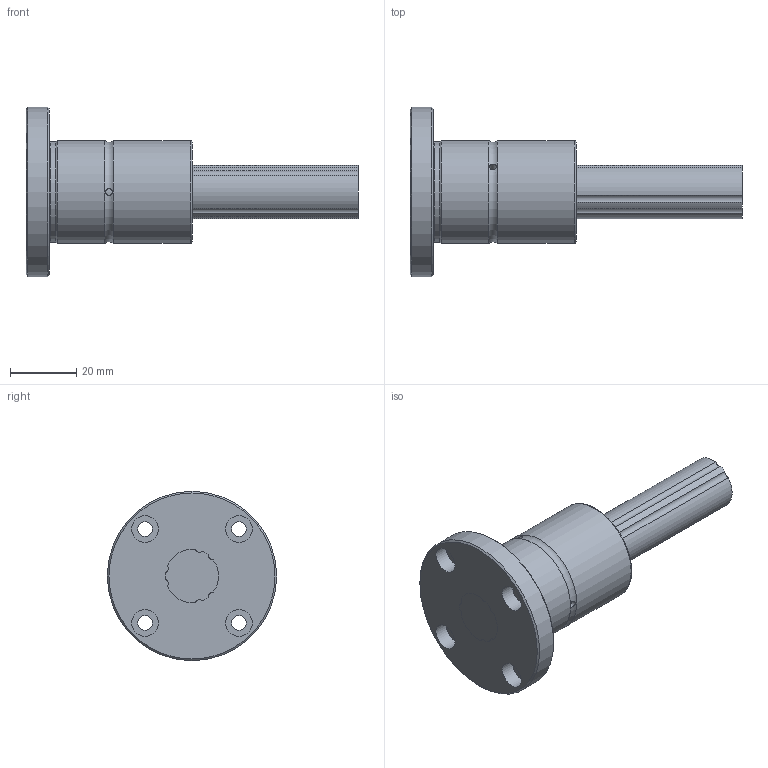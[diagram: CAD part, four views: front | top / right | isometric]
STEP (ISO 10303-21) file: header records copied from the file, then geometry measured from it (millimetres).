
FILE_DESCRIPTION(/* description */ ('STEP AP214'),/* implementation_level */ '2;1');
FILE_NAME(/* name */ 'LF161100(00)',/* time_stamp */ '2024-09-05T14:34:32+02:00',/* author */ ('License CC BY-ND 4.0'),/* organization */ ('CADENAS'),/* preprocessor_version */ 'ST-DEVELOPER v19.3',/* originating_system */ 'PARTsolutions',/* authorisation */ ' ');
FILE_SCHEMA (('AUTOMOTIVE_DESIGN {1 0 10303 214 3 1 1}'));
Length unit declared in the file: millimetre
Products named in the file (3): LF161100(00); LF 16100 FTLFShaft; LF 16 FTLF Cylindar
Assembly tree (2 placements, depth 2):
  LF161100(00)
    LF 16100 FTLFShaft
    LF 16 FTLF Cylindar
Bounding box: 100 x 51 x 51 mm (x, y, z)
Volume: 55259.5 mm3; surface area: 17668.2 mm2
Topology: 2 solids, 2 shells, 54 faces, 134 edges, 89 vertices
Faces by surface type: cylinder 39, plane 9, torus 4, cone 2
Full cylindrical faces by diameter (mm): 2 x3, 4.5 x4, 8 x4, 30.4 x1, 31 x2, 51 x1
Entity records: 1633 total; most frequent: CARTESIAN_POINT 305, DIRECTION 290, ORIENTED_EDGE 212, AXIS2_PLACEMENT_3D 133, EDGE_CURVE 106, EDGE_LOOP 96, FACE_BOUND 96, VERTEX_POINT 82
